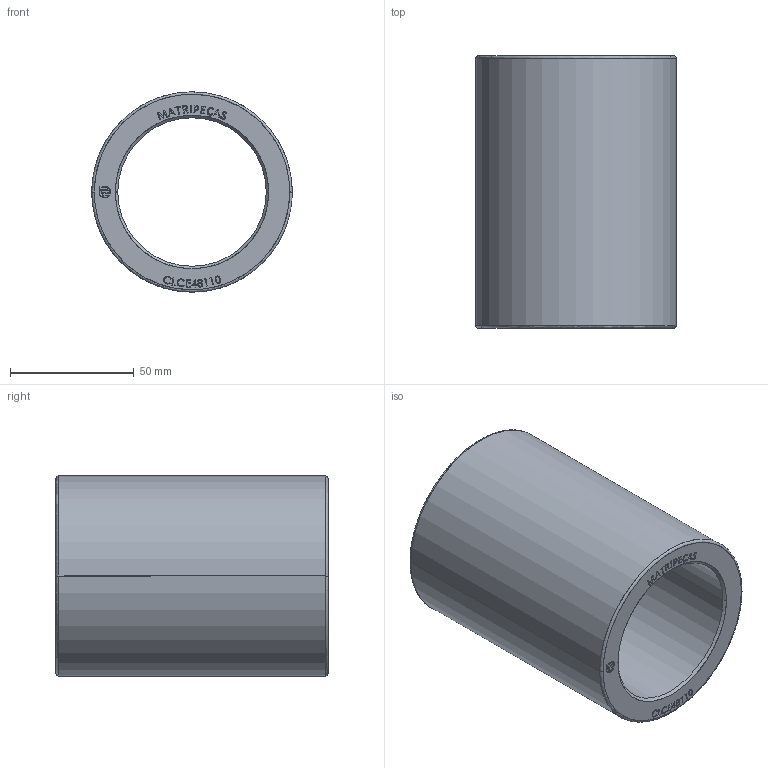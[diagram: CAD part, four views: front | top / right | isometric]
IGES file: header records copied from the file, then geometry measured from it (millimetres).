
Start section: SolidWorks IGES file using analytic representation for surfaces
Global section: file name: C:\Users\Maxiel\Desktop\pecas corrigidas\Camisa Lisa Para Colar De Esferas\CLCE48110.igs; native system: SolidWorks 2014; preprocessor: SolidWorks 2014; author: Maxiel; date: 140728.214950; units: millimetre
Bounding box: 81 x 110 x 81 mm (x, y, z)
Surface area: 53085.7 mm2 (no closed solid volume)
Topology: 0 solids, 0 shells, 313 faces, 4089 edges, 4089 vertices
Faces by surface type: bspline 294, revolution 19
